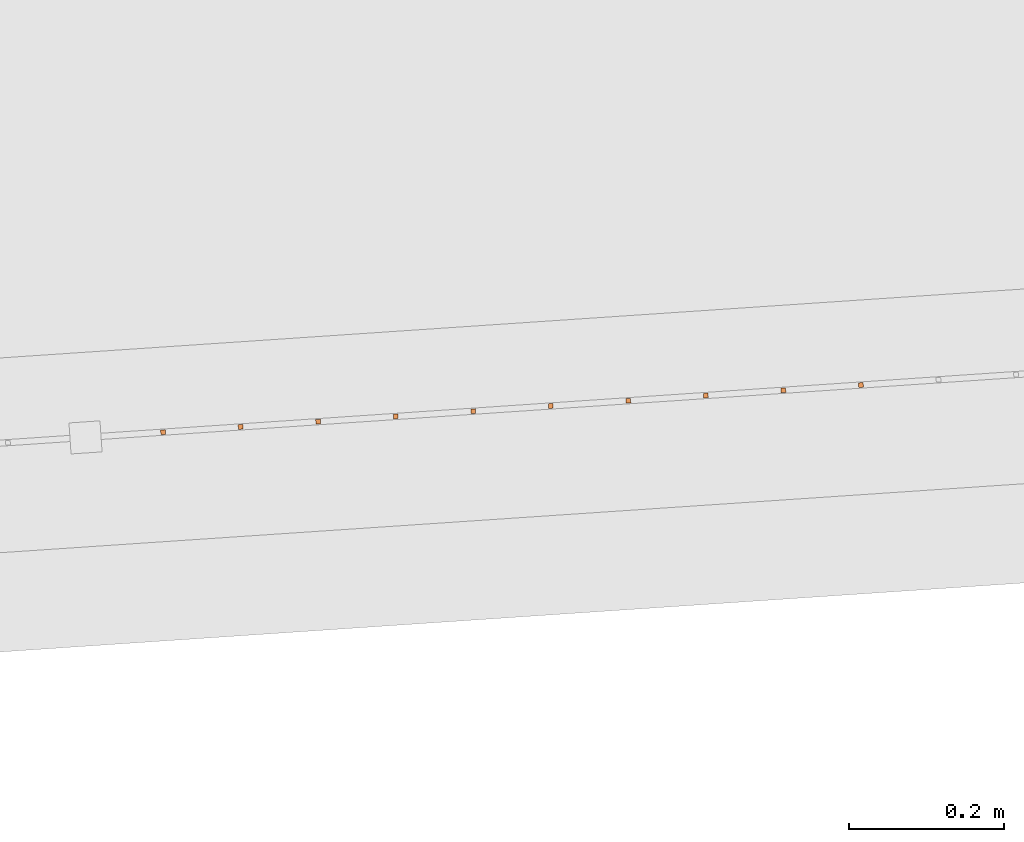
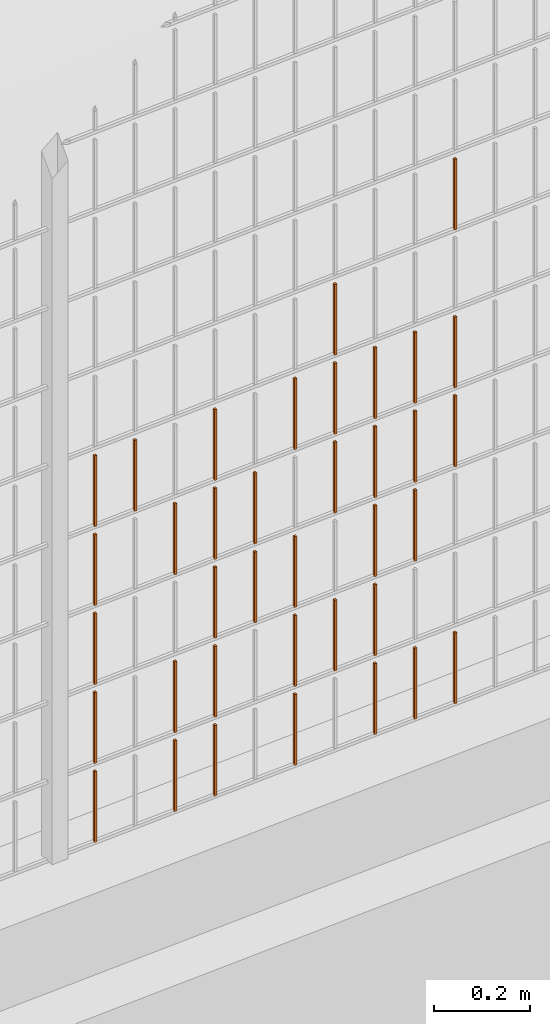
# One storey, part 265 of 1809: 37 proxies, 1 element without a shape of its own.
"""IFC2X3 building model written with IfcOpenShell, lengths in millimetres."""

from ifc_helpers import new_model, entity, si_unit, converted_unit, derived_unit, money_unit, direction, frame, origin_with_axes, place, context, subcontext, project, spatial, faceted_brep, source, transform, mapped, material, type_object, element, aggregate, save


model = new_model("IFC2X3")

# Units and contexts
model_context = context("Model", 3, precision=0.01, world=origin_with_axes(), true_north=direction((0.0, 1.0)))
body_context = subcontext(model_context, "Body", "Model", "MODEL_VIEW")
ifc_project = project(units=[si_unit("LENGTHUNIT", "METRE", prefix="MILLI"), si_unit("AREAUNIT", "SQUARE_METRE"), si_unit("VOLUMEUNIT", "CUBIC_METRE"), converted_unit("PLANEANGLEUNIT", "DEGREE", entity("IfcPlaneAngleMeasure", 0.0174532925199), si_unit("PLANEANGLEUNIT", "RADIAN"), dimensions=[0, 0, 0, 0, 0, 0, 0]), si_unit("SOLIDANGLEUNIT", "STERADIAN"), money_unit("EUR"), converted_unit("TIMEUNIT", "Year", entity("IfcTimeMeasure", 31556926.0), si_unit("TIMEUNIT", "SECOND"), dimensions=[0, 0, 1, 0, 0, 0, 0]), si_unit("MASSUNIT", "GRAM", prefix="KILO"), si_unit("THERMODYNAMICTEMPERATUREUNIT", "DEGREE_CELSIUS"), si_unit("LUMINOUSINTENSITYUNIT", "LUMEN"), si_unit("ENERGYUNIT", "JOULE", prefix="MEGA"), derived_unit("THERMALCONDUCTANCEUNIT", [(si_unit("POWERUNIT", "WATT"), 1), (si_unit("LENGTHUNIT", "METRE"), -1), (si_unit("THERMODYNAMICTEMPERATUREUNIT", "KELVIN"), -1)]), derived_unit("SPECIFICHEATCAPACITYUNIT", [(si_unit("ENERGYUNIT", "JOULE"), 1), (si_unit("MASSUNIT", "GRAM", prefix="KILO"), -1), (si_unit("THERMODYNAMICTEMPERATUREUNIT", "KELVIN"), -1)]), derived_unit("MASSDENSITYUNIT", [(si_unit("MASSUNIT", "GRAM", prefix="KILO"), 1), (si_unit("VOLUMEUNIT", "CUBIC_METRE"), -1)])], contexts=[model_context])

# Site, building, storey
site_placement = place(None, origin_with_axes())
site = spatial("IfcSite", under=ifc_project, at=site_placement, Name="Politse- ja Piirivalveameti ning Päästeameti ühishoone", CompositionType="ELEMENT")
building_placement = place(site_placement, origin_with_axes())
building = spatial("IfcBuilding", under=site, at=building_placement, Name="Politse- ja Piirivalveameti ning Päästeameti ühishoone", CompositionType="ELEMENT")
storey_placement = place(building_placement, origin_with_axes())
storey = spatial("IfcBuildingStorey", under=building, at=storey_placement, Name="Esimene korrus", CompositionType="ELEMENT", Elevation=0.0)

# Proxies
building_element_proxy_type_1 = type_object("IfcBuildingElementProxyType", Name="Railing Type", PredefinedType="NOTDEFINED")
proxy_1_placement = place(storey_placement, frame((89252.001212, -29183.4766571, 203.661247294), z_axis=(0.0, 0.0, 1.0), x_axis=(1.0, 0.0, 0.0)))
proxy_1 = element("IfcBuildingElementProxy", 1, at=proxy_1_placement, inside=storey, type_object=building_element_proxy_type_1, Name="PIIRDEAED")
ifc_material = material(Name="ET-03_Raud")
building_element_proxy_type_2 = type_object("IfcBuildingElementProxyType", Name="IfcBuildingElementProxy", PredefinedType="NOTDEFINED")
shared_shape_1 = source(origin_with_axes(), body_context, "Body", "Brep", [
    faceted_brep([(3.0, 3.0, -0.000752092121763), (-3.0, 3.0, -0.000752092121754), (-3.00000000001, 2.99999999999, 179.99926046), (2.99999999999, 2.99999999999, 179.99926046), (3.0, -3.0, 0.000752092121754), (-3.0, -3.0, 0.000752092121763), (-3.00000000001, -3.00000000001, 180.000764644), (2.99999999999, -3.00000000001, 180.000764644)], [[[0, 1, 2, 3]], [[0, 4, 5, 1]], [[1, 5, 6, 2]], [[3, 2, 6, 7]], [[4, 0, 3, 7]], [[5, 4, 7, 6]]]),
])
proxy_2_placement = place(proxy_1_placement, frame((-56497.9489064, -21113.9979947, 1013.03822354), z_axis=(0.0, 0.0, 1.0), x_axis=(1.0, 0.0, 0.0)))
proxy_2 = element("IfcBuildingElementProxy", 2, at=proxy_2_placement, type_object=building_element_proxy_type_2, material=ifc_material, Name="BALUSTER - 001", context=body_context, shape_type="MappedRepresentation", body=[
    mapped(shared_shape_1, transform((0.0, 0.0, 0.0), x_axis=(-0.0673926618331, 0.997726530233, 0.0), y_axis=(-0.997726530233, -0.0673926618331, 0.0), z_axis=(0.0, 0.0, 1.0))),
])
shared_shape_2 = source(origin_with_axes(), body_context, "Body", "Brep", [
    faceted_brep([(3.0, 3.0, -0.000752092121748), (-3.0, 3.0, -0.00075209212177), (-3.0, 3.0, 179.99926046), (3.0, 3.0, 179.99926046), (3.0, -3.0, 0.00075209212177), (-3.0, -3.0, 0.000752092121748), (-3.0, -3.0, 180.000764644), (3.0, -3.0, 180.000764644)], [[[0, 1, 2, 3]], [[0, 4, 5, 1]], [[1, 5, 6, 2]], [[3, 2, 6, 7]], [[4, 0, 3, 7]], [[5, 4, 7, 6]]]),
])
proxy_3_placement = place(proxy_1_placement, frame((-56597.7215594, -21120.7372608, 13.0131538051), z_axis=(0.0, 0.0, 1.0), x_axis=(1.0, 0.0, 0.0)))
proxy_3 = element("IfcBuildingElementProxy", 3, at=proxy_3_placement, type_object=building_element_proxy_type_2, material=ifc_material, Name="BALUSTER - 001", context=body_context, shape_type="MappedRepresentation", body=[
    mapped(shared_shape_2, transform((0.0, 0.0, 0.0), x_axis=(-0.0673926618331, 0.997726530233, 0.0), y_axis=(-0.997726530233, -0.0673926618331, 0.0), z_axis=(0.0, 0.0, 1.0))),
])
shared_shape_3 = source(origin_with_axes(), body_context, "Body", "Brep", [
    faceted_brep([(3.0, 3.0, -0.000752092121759), (-3.0, 3.0, -0.00075209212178), (-3.0, 3.0, 179.99926046), (3.0, 3.0, 179.99926046), (3.0, -3.0, 0.00075209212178), (-3.0, -3.0, 0.000752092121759), (-3.0, -3.0, 180.000764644), (3.0, -3.0, 180.000764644)], [[[0, 1, 2, 3]], [[0, 4, 5, 1]], [[1, 5, 6, 2]], [[3, 2, 6, 7]], [[4, 0, 3, 7]], [[5, 4, 7, 6]]]),
])
proxy_4_placement = place(proxy_1_placement, frame((-57096.5848245, -21154.4335918, 12.8878051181), z_axis=(0.0, 0.0, 1.0), x_axis=(1.0, 0.0, 0.0)))
proxy_4 = element("IfcBuildingElementProxy", 4, at=proxy_4_placement, type_object=building_element_proxy_type_2, material=ifc_material, Name="BALUSTER - 001", context=body_context, shape_type="MappedRepresentation", body=[
    mapped(shared_shape_3, transform((0.0, 0.0, 0.0), x_axis=(-0.0673926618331, 0.997726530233, 0.0), y_axis=(-0.997726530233, -0.0673926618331, 0.0), z_axis=(0.0, 0.0, 1.0))),
])
shared_shape_4 = source(origin_with_axes(), body_context, "Body", "Brep", [
    faceted_brep([(3.0, 3.0, -0.000752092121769), (-3.0, 3.0, -0.00075209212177), (-3.0, 3.0, 179.99926046), (3.0, 3.0, 179.99926046), (3.0, -3.0, 0.00075209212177), (-3.0, -3.0, 0.000752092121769), (-3.0, -3.0, 180.000764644), (3.0, -3.0, 180.000764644)], [[[0, 1, 2, 3]], [[0, 4, 5, 1]], [[1, 5, 6, 2]], [[3, 2, 6, 7]], [[4, 0, 3, 7]], [[5, 4, 7, 6]]]),
])
proxy_5_placement = place(proxy_1_placement, frame((-56198.6309473, -21093.7801961, 13.1134327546), z_axis=(0.0, 0.0, 1.0), x_axis=(1.0, 0.0, 0.0)))
proxy_5 = element("IfcBuildingElementProxy", 5, at=proxy_5_placement, type_object=building_element_proxy_type_2, material=ifc_material, Name="BALUSTER - 001", context=body_context, shape_type="MappedRepresentation", body=[
    mapped(shared_shape_4, transform((0.0, 0.0, 0.0), x_axis=(-0.0673926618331, 0.997726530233, 0.0), y_axis=(-0.997726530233, -0.0673926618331, 0.0), z_axis=(0.0, 0.0, 1.0))),
])
proxy_6_placement = place(proxy_1_placement, frame((-56797.2668654, -21134.2157932, 12.9630143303), z_axis=(0.0, 0.0, 1.0), x_axis=(1.0, 0.0, 0.0)))
proxy_6 = element("IfcBuildingElementProxy", 6, at=proxy_6_placement, type_object=building_element_proxy_type_2, material=ifc_material, Name="BALUSTER - 001", context=body_context, shape_type="MappedRepresentation", body=[
    mapped(shared_shape_4, transform((0.0, 0.0, 0.0), x_axis=(-0.0673926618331, 0.997726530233, 0.0), y_axis=(-0.997726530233, -0.0673926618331, 0.0), z_axis=(0.0, 0.0, 1.0))),
])
shared_shape_5 = source(origin_with_axes(), body_context, "Body", "Brep", [
    faceted_brep([(3.0, 3.0, -0.000752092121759), (-3.0, 3.0, -0.00075209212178), (-3.0, 3.0, 179.99926046), (3.0, 3.0, 179.99926046), (3.0, -3.0, 0.00075209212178), (-3.0, -3.0, 0.000752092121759), (-3.0, -3.0, 180.000764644), (3.0, -3.0, 180.000764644)], [[[0, 1, 2, 3]], [[0, 4, 5, 1]], [[1, 5, 6, 2]], [[3, 2, 6, 7]], [[4, 0, 3, 7]], [[5, 4, 7, 6]]]),
])
proxy_7_placement = place(proxy_1_placement, frame((-56298.4036003, -21100.5194623, 13.0883630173), z_axis=(0.0, 0.0, 1.0), x_axis=(1.0, 0.0, 0.0)))
proxy_7 = element("IfcBuildingElementProxy", 7, at=proxy_7_placement, type_object=building_element_proxy_type_2, material=ifc_material, Name="BALUSTER - 001", context=body_context, shape_type="MappedRepresentation", body=[
    mapped(shared_shape_5, transform((0.0, 0.0, 0.0), x_axis=(-0.0673926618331, 0.997726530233, 0.0), y_axis=(-0.997726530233, -0.0673926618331, 0.0), z_axis=(0.0, 0.0, 1.0))),
])
shared_shape_6 = source(origin_with_axes(), body_context, "Body", "Brep", [
    faceted_brep([(3.0, 3.0, -0.000752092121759), (-3.0, 3.0, -0.00075209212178), (-3.0, 3.0, 179.99926046), (3.0, 3.0, 179.99926046), (3.0, -3.0, 0.00075209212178), (-3.0, -3.0, 0.000752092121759), (-3.0, -3.0, 180.000764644), (3.0, -3.0, 180.000764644)], [[[0, 1, 2, 3]], [[0, 4, 5, 1]], [[1, 5, 6, 2]], [[3, 2, 6, 7]], [[4, 0, 3, 7]], [[5, 4, 7, 6]]]),
])
proxy_8_placement = place(proxy_1_placement, frame((-56497.9489064, -21113.9979947, 213.038223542), z_axis=(0.0, 0.0, 1.0), x_axis=(1.0, 0.0, 0.0)))
proxy_8 = element("IfcBuildingElementProxy", 8, at=proxy_8_placement, type_object=building_element_proxy_type_2, material=ifc_material, Name="BALUSTER - 001", context=body_context, shape_type="MappedRepresentation", body=[
    mapped(shared_shape_6, transform((0.0, 0.0, 0.0), x_axis=(-0.0673926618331, 0.997726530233, 0.0), y_axis=(-0.997726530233, -0.0673926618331, 0.0), z_axis=(0.0, 0.0, 1.0))),
])
proxy_9_placement = place(proxy_1_placement, frame((-57096.5848245, -21154.4335918, 212.887805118), z_axis=(0.0, 0.0, 1.0), x_axis=(1.0, 0.0, 0.0)))
proxy_9 = element("IfcBuildingElementProxy", 9, at=proxy_9_placement, type_object=building_element_proxy_type_2, material=ifc_material, Name="BALUSTER - 001", context=body_context, shape_type="MappedRepresentation", body=[
    mapped(shared_shape_6, transform((0.0, 0.0, 0.0), x_axis=(-0.0673926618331, 0.997726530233, 0.0), y_axis=(-0.997726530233, -0.0673926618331, 0.0), z_axis=(0.0, 0.0, 1.0))),
])
proxy_10_placement = place(proxy_1_placement, frame((-56298.4036003, -21100.5194623, 413.088363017), z_axis=(0.0, 0.0, 1.0), x_axis=(1.0, 0.0, 0.0)))
proxy_10 = element("IfcBuildingElementProxy", 10, at=proxy_10_placement, type_object=building_element_proxy_type_2, material=ifc_material, Name="BALUSTER - 001", context=body_context, shape_type="MappedRepresentation", body=[
    mapped(shared_shape_6, transform((0.0, 0.0, 0.0), x_axis=(-0.0673926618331, 0.997726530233, 0.0), y_axis=(-0.997726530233, -0.0673926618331, 0.0), z_axis=(0.0, 0.0, 1.0))),
])
proxy_11_placement = place(proxy_1_placement, frame((-57096.5848245, -21154.4335918, 412.887805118), z_axis=(0.0, 0.0, 1.0), x_axis=(1.0, 0.0, 0.0)))
proxy_11 = element("IfcBuildingElementProxy", 11, at=proxy_11_placement, type_object=building_element_proxy_type_2, material=ifc_material, Name="BALUSTER - 001", context=body_context, shape_type="MappedRepresentation", body=[
    mapped(shared_shape_6, transform((0.0, 0.0, 0.0), x_axis=(-0.0673926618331, 0.997726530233, 0.0), y_axis=(-0.997726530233, -0.0673926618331, 0.0), z_axis=(0.0, 0.0, 1.0))),
])
shared_shape_7 = source(origin_with_axes(), body_context, "Body", "Brep", [
    faceted_brep([(3.0, 3.0, -0.000752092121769), (-3.0, 3.0, -0.00075209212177), (-3.0, 3.0, 179.99926046), (3.0, 3.0, 179.99926046), (3.0, -3.0, 0.00075209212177), (-3.0, -3.0, 0.000752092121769), (-3.0, -3.0, 180.000764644), (3.0, -3.0, 180.000764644)], [[[0, 1, 2, 3]], [[0, 4, 5, 1]], [[1, 5, 6, 2]], [[3, 2, 6, 7]], [[4, 0, 3, 7]], [[5, 4, 7, 6]]]),
])
proxy_12_placement = place(proxy_1_placement, frame((-56797.2668654, -21134.2157932, 212.96301433), z_axis=(0.0, 0.0, 1.0), x_axis=(1.0, 0.0, 0.0)))
proxy_12 = element("IfcBuildingElementProxy", 12, at=proxy_12_placement, type_object=building_element_proxy_type_2, material=ifc_material, Name="BALUSTER - 001", context=body_context, shape_type="MappedRepresentation", body=[
    mapped(shared_shape_7, transform((0.0, 0.0, 0.0), x_axis=(-0.0673926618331, 0.997726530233, 0.0), y_axis=(-0.997726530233, -0.0673926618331, 0.0), z_axis=(0.0, 0.0, 1.0))),
])
shared_shape_8 = source(origin_with_axes(), body_context, "Body", "Brep", [
    faceted_brep([(3.0, 3.0, -0.000752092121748), (-3.0, 3.0, -0.00075209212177), (-3.0, 3.0, 179.99926046), (3.0, 3.0, 179.99926046), (3.0, -3.0, 0.00075209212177), (-3.0, -3.0, 0.000752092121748), (-3.0, -3.0, 180.000764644), (3.0, -3.0, 180.000764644)], [[[0, 1, 2, 3]], [[0, 4, 5, 1]], [[1, 5, 6, 2]], [[3, 2, 6, 7]], [[4, 0, 3, 7]], [[5, 4, 7, 6]]]),
])
proxy_13_placement = place(proxy_1_placement, frame((-56597.7215594, -21120.7372608, 213.013153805), z_axis=(0.0, 0.0, 1.0), x_axis=(1.0, 0.0, 0.0)))
proxy_13 = element("IfcBuildingElementProxy", 13, at=proxy_13_placement, type_object=building_element_proxy_type_2, material=ifc_material, Name="BALUSTER - 001", context=body_context, shape_type="MappedRepresentation", body=[
    mapped(shared_shape_8, transform((0.0, 0.0, 0.0), x_axis=(-0.0673926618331, 0.997726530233, 0.0), y_axis=(-0.997726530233, -0.0673926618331, 0.0), z_axis=(0.0, 0.0, 1.0))),
])
proxy_14_placement = place(proxy_1_placement, frame((-56597.7215594, -21120.7372608, 413.013153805), z_axis=(0.0, 0.0, 1.0), x_axis=(1.0, 0.0, 0.0)))
proxy_14 = element("IfcBuildingElementProxy", 14, at=proxy_14_placement, type_object=building_element_proxy_type_2, material=ifc_material, Name="BALUSTER - 001", context=body_context, shape_type="MappedRepresentation", body=[
    mapped(shared_shape_8, transform((0.0, 0.0, 0.0), x_axis=(-0.0673926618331, 0.997726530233, 0.0), y_axis=(-0.997726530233, -0.0673926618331, 0.0), z_axis=(0.0, 0.0, 1.0))),
])
shared_shape_9 = source(origin_with_axes(), body_context, "Body", "Brep", [
    faceted_brep([(3.0, 3.0, -0.000752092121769), (-3.0, 3.0, -0.00075209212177), (-3.0, 3.0, 179.99926046), (3.0, 3.0, 179.99926046), (3.0, -3.0, 0.00075209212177), (-3.0, -3.0, 0.000752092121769), (-3.0, -3.0, 180.000764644), (3.0, -3.0, 180.000764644)], [[[0, 1, 2, 3]], [[0, 4, 5, 1]], [[1, 5, 6, 2]], [[3, 2, 6, 7]], [[4, 0, 3, 7]], [[5, 4, 7, 6]]]),
])
proxy_15_placement = place(proxy_1_placement, frame((-56797.2668654, -21134.2157932, 412.96301433), z_axis=(0.0, 0.0, 1.0), x_axis=(1.0, 0.0, 0.0)))
proxy_15 = element("IfcBuildingElementProxy", 15, at=proxy_15_placement, type_object=building_element_proxy_type_2, material=ifc_material, Name="BALUSTER - 001", context=body_context, shape_type="MappedRepresentation", body=[
    mapped(shared_shape_9, transform((0.0, 0.0, 0.0), x_axis=(-0.0673926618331, 0.997726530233, 0.0), y_axis=(-0.997726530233, -0.0673926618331, 0.0), z_axis=(0.0, 0.0, 1.0))),
])
proxy_16_placement = place(proxy_1_placement, frame((-56198.6309473, -21093.7801961, 613.113432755), z_axis=(0.0, 0.0, 1.0), x_axis=(1.0, 0.0, 0.0)))
proxy_16 = element("IfcBuildingElementProxy", 16, at=proxy_16_placement, type_object=building_element_proxy_type_2, material=ifc_material, Name="BALUSTER - 001", context=body_context, shape_type="MappedRepresentation", body=[
    mapped(shared_shape_9, transform((0.0, 0.0, 0.0), x_axis=(-0.0673926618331, 0.997726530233, 0.0), y_axis=(-0.997726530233, -0.0673926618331, 0.0), z_axis=(0.0, 0.0, 1.0))),
])
proxy_17_placement = place(proxy_1_placement, frame((-56797.2668654, -21134.2157932, 612.96301433), z_axis=(0.0, 0.0, 1.0), x_axis=(1.0, 0.0, 0.0)))
proxy_17 = element("IfcBuildingElementProxy", 17, at=proxy_17_placement, type_object=building_element_proxy_type_2, material=ifc_material, Name="BALUSTER - 001", context=body_context, shape_type="MappedRepresentation", body=[
    mapped(shared_shape_9, transform((0.0, 0.0, 0.0), x_axis=(-0.0673926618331, 0.997726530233, 0.0), y_axis=(-0.997726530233, -0.0673926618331, 0.0), z_axis=(0.0, 0.0, 1.0))),
])
shared_shape_10 = source(origin_with_axes(), body_context, "Body", "Brep", [
    faceted_brep([(3.0, 3.0, -0.000752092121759), (-3.0, 3.0, -0.00075209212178), (-3.0, 3.0, 179.99926046), (3.0, 3.0, 179.99926046), (3.0, -3.0, 0.00075209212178), (-3.0, -3.0, 0.000752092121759), (-3.0, -3.0, 180.000764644), (3.0, -3.0, 180.000764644)], [[[0, 1, 2, 3]], [[0, 4, 5, 1]], [[1, 5, 6, 2]], [[3, 2, 6, 7]], [[4, 0, 3, 7]], [[5, 4, 7, 6]]]),
])
proxy_18_placement = place(proxy_1_placement, frame((-57096.5848245, -21154.4335918, 612.887805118), z_axis=(0.0, 0.0, 1.0), x_axis=(1.0, 0.0, 0.0)))
proxy_18 = element("IfcBuildingElementProxy", 18, at=proxy_18_placement, type_object=building_element_proxy_type_2, material=ifc_material, Name="BALUSTER - 001", context=body_context, shape_type="MappedRepresentation", body=[
    mapped(shared_shape_10, transform((0.0, 0.0, 0.0), x_axis=(-0.0673926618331, 0.997726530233, 0.0), y_axis=(-0.997726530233, -0.0673926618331, 0.0), z_axis=(0.0, 0.0, 1.0))),
])
proxy_19_placement = place(proxy_1_placement, frame((-56298.4036003, -21100.5194623, 813.088363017), z_axis=(0.0, 0.0, 1.0), x_axis=(1.0, 0.0, 0.0)))
proxy_19 = element("IfcBuildingElementProxy", 19, at=proxy_19_placement, type_object=building_element_proxy_type_2, material=ifc_material, Name="BALUSTER - 001", context=body_context, shape_type="MappedRepresentation", body=[
    mapped(shared_shape_10, transform((0.0, 0.0, 0.0), x_axis=(-0.0673926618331, 0.997726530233, 0.0), y_axis=(-0.997726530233, -0.0673926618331, 0.0), z_axis=(0.0, 0.0, 1.0))),
])
proxy_20_placement = place(proxy_1_placement, frame((-57096.5848245, -21154.4335918, 812.887805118), z_axis=(0.0, 0.0, 1.0), x_axis=(1.0, 0.0, 0.0)))
proxy_20 = element("IfcBuildingElementProxy", 20, at=proxy_20_placement, type_object=building_element_proxy_type_2, material=ifc_material, Name="BALUSTER - 001", context=body_context, shape_type="MappedRepresentation", body=[
    mapped(shared_shape_10, transform((0.0, 0.0, 0.0), x_axis=(-0.0673926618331, 0.997726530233, 0.0), y_axis=(-0.997726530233, -0.0673926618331, 0.0), z_axis=(0.0, 0.0, 1.0))),
])
shared_shape_11 = source(origin_with_axes(), body_context, "Body", "Brep", [
    faceted_brep([(3.0, 3.0, -0.000752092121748), (-3.0, 3.0, -0.00075209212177), (-3.0, 3.0, 179.99926046), (3.0, 3.0, 179.99926046), (3.0, -3.0, 0.00075209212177), (-3.0, -3.0, 0.000752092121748), (-3.0, -3.0, 180.000764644), (3.0, -3.0, 180.000764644)], [[[0, 1, 2, 3]], [[0, 4, 5, 1]], [[1, 5, 6, 2]], [[3, 2, 6, 7]], [[4, 0, 3, 7]], [[5, 4, 7, 6]]]),
])
proxy_21_placement = place(proxy_1_placement, frame((-56597.7215594, -21120.7372608, 813.013153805), z_axis=(0.0, 0.0, 1.0), x_axis=(1.0, 0.0, 0.0)))
proxy_21 = element("IfcBuildingElementProxy", 21, at=proxy_21_placement, type_object=building_element_proxy_type_2, material=ifc_material, Name="BALUSTER - 001", context=body_context, shape_type="MappedRepresentation", body=[
    mapped(shared_shape_11, transform((0.0, 0.0, 0.0), x_axis=(-0.0673926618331, 0.997726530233, 0.0), y_axis=(-0.997726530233, -0.0673926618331, 0.0), z_axis=(0.0, 0.0, 1.0))),
])
shared_shape_12 = source(origin_with_axes(), body_context, "Body", "Brep", [
    faceted_brep([(3.0, 3.0, -0.000752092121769), (-3.0, 3.0, -0.00075209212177), (-3.0, 3.0, 179.99926046), (3.0, 3.0, 179.99926046), (3.0, -3.0, 0.00075209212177), (-3.0, -3.0, 0.000752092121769), (-3.0, -3.0, 180.000764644), (3.0, -3.0, 180.000764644)], [[[0, 1, 2, 3]], [[0, 4, 5, 1]], [[1, 5, 6, 2]], [[3, 2, 6, 7]], [[4, 0, 3, 7]], [[5, 4, 7, 6]]]),
])
proxy_22_placement = place(proxy_1_placement, frame((-56797.2668654, -21134.2157932, 812.96301433), z_axis=(0.0, 0.0, 1.0), x_axis=(1.0, 0.0, 0.0)))
proxy_22 = element("IfcBuildingElementProxy", 22, at=proxy_22_placement, type_object=building_element_proxy_type_2, material=ifc_material, Name="BALUSTER - 001", context=body_context, shape_type="MappedRepresentation", body=[
    mapped(shared_shape_12, transform((0.0, 0.0, 0.0), x_axis=(-0.0673926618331, 0.997726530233, 0.0), y_axis=(-0.997726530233, -0.0673926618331, 0.0), z_axis=(0.0, 0.0, 1.0))),
])
shared_shape_13 = source(origin_with_axes(), body_context, "Body", "Brep", [
    faceted_brep([(3.0, 3.0, -0.000752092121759), (-3.0, 3.0, -0.00075209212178), (-3.0, 3.0, 179.99926046), (3.0, 3.0, 179.99926046), (3.0, -3.0, 0.00075209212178), (-3.0, -3.0, 0.000752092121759), (-3.0, -3.0, 180.000764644), (3.0, -3.0, 180.000764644)], [[[0, 1, 2, 3]], [[0, 4, 5, 1]], [[1, 5, 6, 2]], [[3, 2, 6, 7]], [[4, 0, 3, 7]], [[5, 4, 7, 6]]]),
])
proxy_23_placement = place(proxy_1_placement, frame((-56298.4036003, -21100.5194623, 613.088363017), z_axis=(0.0, 0.0, 1.0), x_axis=(1.0, 0.0, 0.0)))
proxy_23 = element("IfcBuildingElementProxy", 23, at=proxy_23_placement, type_object=building_element_proxy_type_2, material=ifc_material, Name="BALUSTER - 001", context=body_context, shape_type="MappedRepresentation", body=[
    mapped(shared_shape_13, transform((0.0, 0.0, 0.0), x_axis=(-0.0673926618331, 0.997726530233, 0.0), y_axis=(-0.997726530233, -0.0673926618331, 0.0), z_axis=(0.0, 0.0, 1.0))),
])
shared_shape_14 = source(origin_with_axes(), body_context, "Body", "Brep", [
    faceted_brep([(3.0, 3.0, -0.000752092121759), (-3.0, 3.0, -0.00075209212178), (-3.0, 3.0, 179.99926046), (3.0, 3.0, 179.99926046), (3.0, -3.0, 0.00075209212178), (-3.0, -3.0, 0.000752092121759), (-3.0, -3.0, 180.000764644), (3.0, -3.0, 180.000764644)], [[[0, 1, 2, 3]], [[0, 4, 5, 1]], [[1, 5, 6, 2]], [[3, 2, 6, 7]], [[4, 0, 3, 7]], [[5, 4, 7, 6]]]),
])
proxy_24_placement = place(proxy_1_placement, frame((-56497.9489064, -21113.9979947, 613.038223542), z_axis=(0.0, 0.0, 1.0), x_axis=(1.0, 0.0, 0.0)))
proxy_24 = element("IfcBuildingElementProxy", 24, at=proxy_24_placement, type_object=building_element_proxy_type_2, material=ifc_material, Name="BALUSTER - 001", context=body_context, shape_type="MappedRepresentation", body=[
    mapped(shared_shape_14, transform((0.0, 0.0, 0.0), x_axis=(-0.0673926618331, 0.997726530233, 0.0), y_axis=(-0.997726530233, -0.0673926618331, 0.0), z_axis=(0.0, 0.0, 1.0))),
])
proxy_25_placement = place(proxy_1_placement, frame((-56497.9489064, -21113.9979947, 813.038223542), z_axis=(0.0, 0.0, 1.0), x_axis=(1.0, 0.0, 0.0)))
proxy_25 = element("IfcBuildingElementProxy", 25, at=proxy_25_placement, type_object=building_element_proxy_type_2, material=ifc_material, Name="BALUSTER - 001", context=body_context, shape_type="MappedRepresentation", body=[
    mapped(shared_shape_14, transform((0.0, 0.0, 0.0), x_axis=(-0.0673926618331, 0.997726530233, 0.0), y_axis=(-0.997726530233, -0.0673926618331, 0.0), z_axis=(0.0, 0.0, 1.0))),
])
shared_shape_15 = source(origin_with_axes(), body_context, "Body", "Brep", [
    faceted_brep([(3.0, 3.0, -0.00075209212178), (-3.0, 3.0, -0.000752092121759), (-3.0, 3.0, 179.99926046), (3.0, 3.0, 179.99926046), (3.0, -3.0, 0.000752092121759), (-3.0, -3.0, 0.00075209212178), (-3.0, -3.0, 180.000764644), (3.0, -3.0, 180.000764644)], [[[0, 1, 2, 3]], [[0, 4, 5, 1]], [[1, 5, 6, 2]], [[3, 2, 6, 7]], [[4, 0, 3, 7]], [[5, 4, 7, 6]]]),
])
proxy_26_placement = place(proxy_1_placement, frame((-56996.8121715, -21147.6943256, 812.912874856), z_axis=(0.0, 0.0, 1.0), x_axis=(1.0, 0.0, 0.0)))
proxy_26 = element("IfcBuildingElementProxy", 26, at=proxy_26_placement, type_object=building_element_proxy_type_2, material=ifc_material, Name="BALUSTER - 001", context=body_context, shape_type="MappedRepresentation", body=[
    mapped(shared_shape_15, transform((0.0, 0.0, 0.0), x_axis=(-0.0673926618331, 0.997726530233, 0.0), y_axis=(-0.997726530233, -0.0673926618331, 0.0), z_axis=(0.0, 0.0, 1.0))),
])
shared_shape_16 = source(origin_with_axes(), body_context, "Body", "Brep", [
    faceted_brep([(3.0, 3.0, -0.000752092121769), (-3.0, 3.0, -0.00075209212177), (-3.0, 3.0, 179.99926046), (3.0, 3.0, 179.99926046), (3.0, -3.0, 0.00075209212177), (-3.0, -3.0, 0.000752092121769), (-3.0, -3.0, 180.000764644), (3.0, -3.0, 180.000764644)], [[[0, 1, 2, 3]], [[0, 4, 5, 1]], [[1, 5, 6, 2]], [[3, 2, 6, 7]], [[4, 0, 3, 7]], [[5, 4, 7, 6]]]),
])
proxy_27_placement = place(proxy_1_placement, frame((-56198.6309473, -21093.7801961, 813.113432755), z_axis=(0.0, 0.0, 1.0), x_axis=(1.0, 0.0, 0.0)))
proxy_27 = element("IfcBuildingElementProxy", 27, at=proxy_27_placement, type_object=building_element_proxy_type_2, material=ifc_material, Name="BALUSTER - 001", context=body_context, shape_type="MappedRepresentation", body=[
    mapped(shared_shape_16, transform((0.0, 0.0, 0.0), x_axis=(-0.0673926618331, 0.997726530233, 0.0), y_axis=(-0.997726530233, -0.0673926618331, 0.0), z_axis=(0.0, 0.0, 1.0))),
])
shared_shape_17 = source(origin_with_axes(), body_context, "Body", "Brep", [
    faceted_brep([(3.0, 3.0, -0.000752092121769), (-3.0, 3.0, -0.00075209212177), (-3.0, 3.0, 179.99926046), (3.0, 3.0, 179.99926046), (3.0, -3.0, 0.00075209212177), (-3.0, -3.0, 0.000752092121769), (-3.0, -3.0, 180.000764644), (3.0, -3.0, 180.000764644)], [[[0, 1, 2, 3]], [[0, 4, 5, 1]], [[1, 5, 6, 2]], [[3, 2, 6, 7]], [[4, 0, 3, 7]], [[5, 4, 7, 6]]]),
])
proxy_28_placement = place(proxy_1_placement, frame((-56398.1762534, -21107.2587285, 13.0632932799), z_axis=(0.0, 0.0, 1.0), x_axis=(1.0, 0.0, 0.0)))
proxy_28 = element("IfcBuildingElementProxy", 28, at=proxy_28_placement, type_object=building_element_proxy_type_2, material=ifc_material, Name="BALUSTER - 001", context=body_context, shape_type="MappedRepresentation", body=[
    mapped(shared_shape_17, transform((0.0, 0.0, 0.0), x_axis=(-0.0673926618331, 0.997726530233, 0.0), y_axis=(-0.997726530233, -0.0673926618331, 0.0), z_axis=(0.0, 0.0, 1.0))),
])
shared_shape_18 = source(origin_with_axes(), body_context, "Body", "Brep", [
    faceted_brep([(3.0, 3.0, -0.00075209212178), (-3.0, 3.0, -0.000752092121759), (-3.0, 3.0, 179.99926046), (3.0, 3.0, 179.99926046), (3.0, -3.0, 0.000752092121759), (-3.0, -3.0, 0.00075209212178), (-3.0, -3.0, 180.000764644), (3.0, -3.0, 180.000764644)], [[[0, 1, 2, 3]], [[0, 4, 5, 1]], [[1, 5, 6, 2]], [[3, 2, 6, 7]], [[4, 0, 3, 7]], [[5, 4, 7, 6]]]),
])
proxy_29_placement = place(proxy_1_placement, frame((-56897.0395185, -21140.9550594, 12.9379445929), z_axis=(0.0, 0.0, 1.0), x_axis=(1.0, 0.0, 0.0)))
proxy_29 = element("IfcBuildingElementProxy", 29, at=proxy_29_placement, type_object=building_element_proxy_type_2, material=ifc_material, Name="BALUSTER - 001", context=body_context, shape_type="MappedRepresentation", body=[
    mapped(shared_shape_18, transform((0.0, 0.0, 0.0), x_axis=(-0.0673926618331, 0.997726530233, 0.0), y_axis=(-0.997726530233, -0.0673926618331, 0.0), z_axis=(0.0, 0.0, 1.0))),
])
proxy_30_placement = place(proxy_1_placement, frame((-56897.0395185, -21140.9550594, 212.937944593), z_axis=(0.0, 0.0, 1.0), x_axis=(1.0, 0.0, 0.0)))
proxy_30 = element("IfcBuildingElementProxy", 30, at=proxy_30_placement, type_object=building_element_proxy_type_2, material=ifc_material, Name="BALUSTER - 001", context=body_context, shape_type="MappedRepresentation", body=[
    mapped(shared_shape_18, transform((0.0, 0.0, 0.0), x_axis=(-0.0673926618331, 0.997726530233, 0.0), y_axis=(-0.997726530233, -0.0673926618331, 0.0), z_axis=(0.0, 0.0, 1.0))),
])
shared_shape_19 = source(origin_with_axes(), body_context, "Body", "Brep", [
    faceted_brep([(3.0, 3.0, -0.000752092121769), (-3.0, 3.0, -0.00075209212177), (-3.0, 3.0, 179.99926046), (3.0, 3.0, 179.99926046), (3.0, -3.0, 0.00075209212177), (-3.0, -3.0, 0.000752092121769), (-3.0, -3.0, 180.000764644), (3.0, -3.0, 180.000764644)], [[[0, 1, 2, 3]], [[0, 4, 5, 1]], [[1, 5, 6, 2]], [[3, 2, 6, 7]], [[4, 0, 3, 7]], [[5, 4, 7, 6]]]),
])
proxy_31_placement = place(proxy_1_placement, frame((-56398.1762534, -21107.2587285, 213.06329328), z_axis=(0.0, 0.0, 1.0), x_axis=(1.0, 0.0, 0.0)))
proxy_31 = element("IfcBuildingElementProxy", 31, at=proxy_31_placement, type_object=building_element_proxy_type_2, material=ifc_material, Name="BALUSTER - 001", context=body_context, shape_type="MappedRepresentation", body=[
    mapped(shared_shape_19, transform((0.0, 0.0, 0.0), x_axis=(-0.0673926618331, 0.997726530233, 0.0), y_axis=(-0.997726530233, -0.0673926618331, 0.0), z_axis=(0.0, 0.0, 1.0))),
])
proxy_32_placement = place(proxy_1_placement, frame((-56398.1762534, -21107.2587285, 413.06329328), z_axis=(0.0, 0.0, 1.0), x_axis=(1.0, 0.0, 0.0)))
proxy_32 = element("IfcBuildingElementProxy", 32, at=proxy_32_placement, type_object=building_element_proxy_type_2, material=ifc_material, Name="BALUSTER - 001", context=body_context, shape_type="MappedRepresentation", body=[
    mapped(shared_shape_19, transform((0.0, 0.0, 0.0), x_axis=(-0.0673926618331, 0.997726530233, 0.0), y_axis=(-0.997726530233, -0.0673926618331, 0.0), z_axis=(0.0, 0.0, 1.0))),
])
shared_shape_20 = source(origin_with_axes(), body_context, "Body", "Brep", [
    faceted_brep([(3.0, 3.0, -0.000752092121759), (-3.0, 3.0, -0.000752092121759), (-3.0, 3.0, 179.99926046), (3.0, 3.0, 179.99926046), (3.0, -3.0, 0.000752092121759), (-3.0, -3.0, 0.000752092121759), (-3.0, -3.0, 180.000764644), (3.0, -3.0, 180.000764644)], [[[0, 1, 2, 3]], [[0, 4, 5, 1]], [[1, 5, 6, 2]], [[3, 2, 6, 7]], [[4, 0, 3, 7]], [[5, 4, 7, 6]]]),
])
proxy_33_placement = place(proxy_1_placement, frame((-56697.4942124, -21127.476527, 412.988084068), z_axis=(0.0, 0.0, 1.0), x_axis=(1.0, 0.0, 0.0)))
proxy_33 = element("IfcBuildingElementProxy", 33, at=proxy_33_placement, type_object=building_element_proxy_type_2, material=ifc_material, Name="BALUSTER - 001", context=body_context, shape_type="MappedRepresentation", body=[
    mapped(shared_shape_20, transform((0.0, 0.0, 0.0), x_axis=(-0.0673926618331, 0.997726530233, 0.0), y_axis=(-0.997726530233, -0.0673926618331, 0.0), z_axis=(0.0, 0.0, 1.0))),
])
proxy_34_placement = place(proxy_1_placement, frame((-56697.4942124, -21127.476527, 612.988084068), z_axis=(0.0, 0.0, 1.0), x_axis=(1.0, 0.0, 0.0)))
proxy_34 = element("IfcBuildingElementProxy", 34, at=proxy_34_placement, type_object=building_element_proxy_type_2, material=ifc_material, Name="BALUSTER - 001", context=body_context, shape_type="MappedRepresentation", body=[
    mapped(shared_shape_20, transform((0.0, 0.0, 0.0), x_axis=(-0.0673926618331, 0.997726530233, 0.0), y_axis=(-0.997726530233, -0.0673926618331, 0.0), z_axis=(0.0, 0.0, 1.0))),
])
shared_shape_21 = source(origin_with_axes(), body_context, "Body", "Brep", [
    faceted_brep([(3.0, 3.0, -0.000752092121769), (-3.0, 3.0, -0.00075209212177), (-3.0, 3.0, 179.99926046), (3.0, 3.0, 179.99926046), (3.0, -3.0, 0.00075209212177), (-3.0, -3.0, 0.000752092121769), (-3.0, -3.0, 180.000764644), (3.0, -3.0, 180.000764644)], [[[0, 1, 2, 3]], [[0, 4, 5, 1]], [[1, 5, 6, 2]], [[3, 2, 6, 7]], [[4, 0, 3, 7]], [[5, 4, 7, 6]]]),
])
proxy_35_placement = place(proxy_1_placement, frame((-56398.1762534, -21107.2587285, 613.06329328), z_axis=(0.0, 0.0, 1.0), x_axis=(1.0, 0.0, 0.0)))
proxy_35 = element("IfcBuildingElementProxy", 35, at=proxy_35_placement, type_object=building_element_proxy_type_2, material=ifc_material, Name="BALUSTER - 001", context=body_context, shape_type="MappedRepresentation", body=[
    mapped(shared_shape_21, transform((0.0, 0.0, 0.0), x_axis=(-0.0673926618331, 0.997726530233, 0.0), y_axis=(-0.997726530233, -0.0673926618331, 0.0), z_axis=(0.0, 0.0, 1.0))),
])
proxy_36_placement = place(proxy_1_placement, frame((-56398.1762534, -21107.2587285, 813.06329328), z_axis=(0.0, 0.0, 1.0), x_axis=(1.0, 0.0, 0.0)))
proxy_36 = element("IfcBuildingElementProxy", 36, at=proxy_36_placement, type_object=building_element_proxy_type_2, material=ifc_material, Name="BALUSTER - 001", context=body_context, shape_type="MappedRepresentation", body=[
    mapped(shared_shape_21, transform((0.0, 0.0, 0.0), x_axis=(-0.0673926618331, 0.997726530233, 0.0), y_axis=(-0.997726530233, -0.0673926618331, 0.0), z_axis=(0.0, 0.0, 1.0))),
])
shared_shape_22 = source(origin_with_axes(), body_context, "Body", "Brep", [
    faceted_brep([(3.0, 3.0, -0.00075209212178), (-3.0, 3.0, -0.000752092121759), (-3.0, 3.0, 179.99926046), (3.0, 3.0, 179.99926046), (3.0, -3.0, 0.000752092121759), (-3.0, -3.0, 0.00075209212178), (-3.0, -3.0, 180.000764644), (3.0, -3.0, 180.000764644)], [[[0, 1, 2, 3]], [[0, 4, 5, 1]], [[1, 5, 6, 2]], [[3, 2, 6, 7]], [[4, 0, 3, 7]], [[5, 4, 7, 6]]]),
])
proxy_37_placement = place(proxy_1_placement, frame((-56897.0395185, -21140.9550594, 612.937944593), z_axis=(0.0, 0.0, 1.0), x_axis=(1.0, 0.0, 0.0)))
proxy_37 = element("IfcBuildingElementProxy", 37, at=proxy_37_placement, type_object=building_element_proxy_type_2, material=ifc_material, Name="BALUSTER - 001", context=body_context, shape_type="MappedRepresentation", body=[
    mapped(shared_shape_22, transform((0.0, 0.0, 0.0), x_axis=(-0.0673926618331, 0.997726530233, 0.0), y_axis=(-0.997726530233, -0.0673926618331, 0.0), z_axis=(0.0, 0.0, 1.0))),
])
shared_shape_23 = source(origin_with_axes(), body_context, "Body", "Brep", [
    faceted_brep([(3.0, 3.0, -0.000752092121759), (-3.0, 3.0, -0.000752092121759), (-3.0, 3.0, 179.99926046), (3.0, 3.0, 179.99926046), (3.0, -3.0, 0.000752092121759), (-3.0, -3.0, 0.000752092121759), (-3.0, -3.0, 180.000764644), (3.0, -3.0, 180.000764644)], [[[0, 1, 2, 3]], [[0, 4, 5, 1]], [[1, 5, 6, 2]], [[3, 2, 6, 7]], [[4, 0, 3, 7]], [[5, 4, 7, 6]]]),
])
proxy_38_placement = place(proxy_1_placement, frame((-56198.6309473, -21093.7801961, 1213.11343275), z_axis=(0.0, 0.0, 1.0), x_axis=(1.0, 0.0, 0.0)))
proxy_38 = element("IfcBuildingElementProxy", 38, at=proxy_38_placement, type_object=building_element_proxy_type_2, material=ifc_material, Name="BALUSTER - 001", context=body_context, shape_type="MappedRepresentation", body=[
    mapped(shared_shape_23, transform((0.0, 0.0, 0.0), x_axis=(-0.0673926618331, 0.997726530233, 0.0), y_axis=(-0.997726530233, -0.0673926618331, 0.0), z_axis=(0.0, 0.0, 1.0))),
])
aggregate(proxy_1, [proxy_5, proxy_7, proxy_28, proxy_3, proxy_6, proxy_29, proxy_4, proxy_31, proxy_8, proxy_13, proxy_12, proxy_30, proxy_9, proxy_10, proxy_32, proxy_14, proxy_33, proxy_15, proxy_11, proxy_16, proxy_23, proxy_35, proxy_24, proxy_34, proxy_17, proxy_37, proxy_18, proxy_27, proxy_19, proxy_36, proxy_25, proxy_21, proxy_22, proxy_26, proxy_20, proxy_2, proxy_38])

save(model, "model.ifc")
